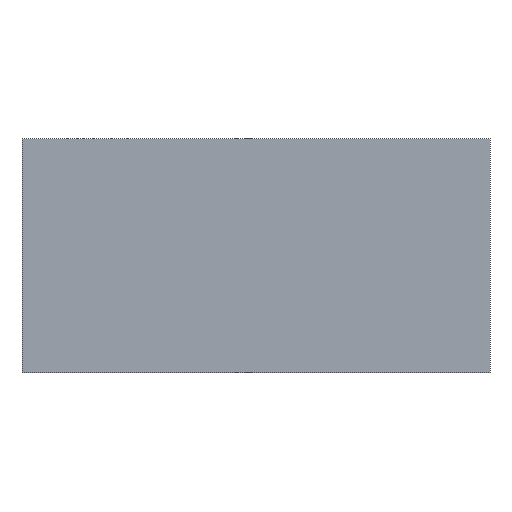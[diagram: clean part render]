
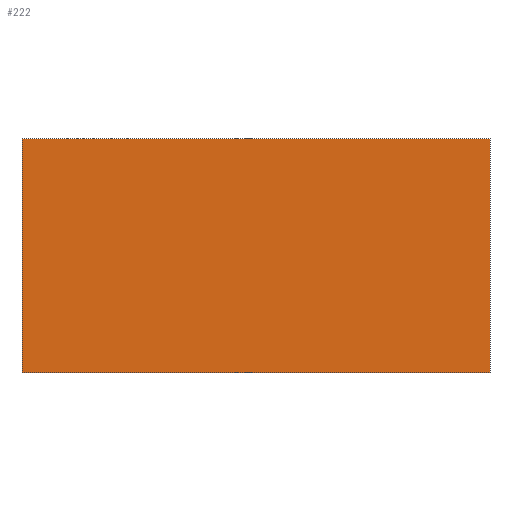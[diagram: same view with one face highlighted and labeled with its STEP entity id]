
A CAD part, front view. The second image highlights one B-rep face of the part: STEP entity #222.
In plain terms, the highlighted planar face has unit normal (0, -1, 0).
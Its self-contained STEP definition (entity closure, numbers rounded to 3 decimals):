
#16=FACE_OUTER_BOUND('',#28,.T.);
#28=EDGE_LOOP('',(#159,#160,#161,#162));
#40=LINE('',#327,#70);
#49=LINE('',#345,#79);
#50=LINE('',#347,#80);
#51=LINE('',#348,#81);
#70=VECTOR('',#270,10.);
#79=VECTOR('',#281,10.);
#80=VECTOR('',#282,10.);
#81=VECTOR('',#283,10.);
#100=VERTEX_POINT('',#324);
#101=VERTEX_POINT('',#326);
#109=VERTEX_POINT('',#344);
#110=VERTEX_POINT('',#346);
#120=EDGE_CURVE('',#100,#101,#40,.T.);
#129=EDGE_CURVE('',#109,#100,#49,.T.);
#130=EDGE_CURVE('',#110,#109,#50,.T.);
#131=EDGE_CURVE('',#101,#110,#51,.T.);
#159=ORIENTED_EDGE('',*,*,#129,.F.);
#160=ORIENTED_EDGE('',*,*,#130,.F.);
#161=ORIENTED_EDGE('',*,*,#131,.F.);
#162=ORIENTED_EDGE('',*,*,#120,.F.);
#210=PLANE('',#254);
#222=ADVANCED_FACE('',(#16),#210,.T.);
#254=AXIS2_PLACEMENT_3D('',#343,#279,#280);
#270=DIRECTION('',(-1.,0.,0.));
#279=DIRECTION('center_axis',(0.,-1.,0.));
#280=DIRECTION('ref_axis',(1.,0.,0.));
#281=DIRECTION('',(0.,0.,-1.));
#282=DIRECTION('',(1.,0.,0.));
#283=DIRECTION('',(0.,0.,1.));
#324=CARTESIAN_POINT('',(30.,-25.,-15.));
#326=CARTESIAN_POINT('',(-30.,-25.,-15.));
#327=CARTESIAN_POINT('',(-30.,-25.,-15.));
#343=CARTESIAN_POINT('Origin',(-30.,-25.,0.));
#344=CARTESIAN_POINT('',(30.,-25.,15.));
#345=CARTESIAN_POINT('',(30.,-25.,0.));
#346=CARTESIAN_POINT('',(-30.,-25.,15.));
#347=CARTESIAN_POINT('',(-30.,-25.,15.));
#348=CARTESIAN_POINT('',(-30.,-25.,0.));
